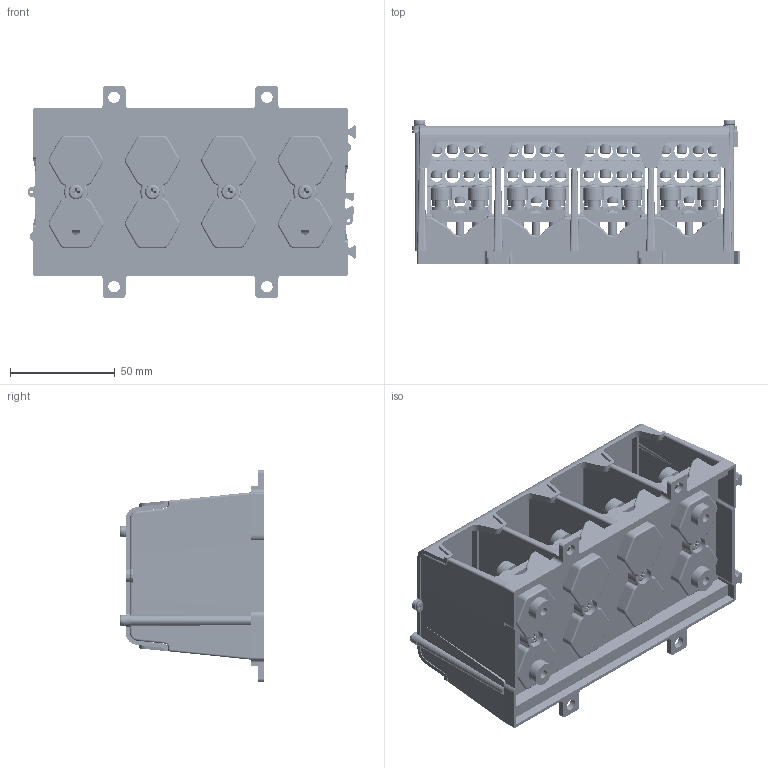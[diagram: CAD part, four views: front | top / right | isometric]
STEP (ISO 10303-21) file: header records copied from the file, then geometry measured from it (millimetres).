
FILE_DESCRIPTION(/* description */ ('Unknown'),/* implementation_level */ '2;1');
FILE_NAME(/* name */ 'DTS4x70_4x7x6+2x25+2x16',/* time_stamp */ '2024-03-25T12:42:17+01:00',/* author */ ('Unknown'),/* organization */ ('Unknown'),/* preprocessor_version */ 'ST-DEVELOPER v18.102',/* originating_system */ 'Solid Edge',/* authorisation */ 'Unknown');
FILE_SCHEMA (('AUTOMOTIVE_DESIGN {1 0 10303 214 3 1 1}'));
Products named in the file (1): DTS4x70_4x7x6+2x25+2x16
Bounding box: 156.85 x 69.2 x 101.2 mm (x, y, z)
Volume: 203669.1 mm3; surface area: 164486.6 mm2
Topology: 1 solids, 1 shells, 3205 faces, 8973 edges, 5476 vertices
Faces by surface type: plane 1416, cylinder 1069, torus 269, cone 240, bspline 115, sphere 96
Full cylindrical faces by diameter (mm): 1.4 x3, 3.242 x4, 4 x4, 4.134 x36, 4.2 x8, 5 x36, 5.4 x2, 5.5 x10, 5.6 x24, 6 x16, 6.4 x8, 7 x12, 8 x12, 8.2 x4, 9 x8, 10 x8, 11.3 x4
Entity records: 122981 total; most frequent: CARTESIAN_POINT 24150, ORIENTED_EDGE 15778, DIRECTION 15713, EDGE_CURVE 7889, AXIS2_PLACEMENT_3D 5829, VERTEX_POINT 5158, LINE 4055, VECTOR 4055
